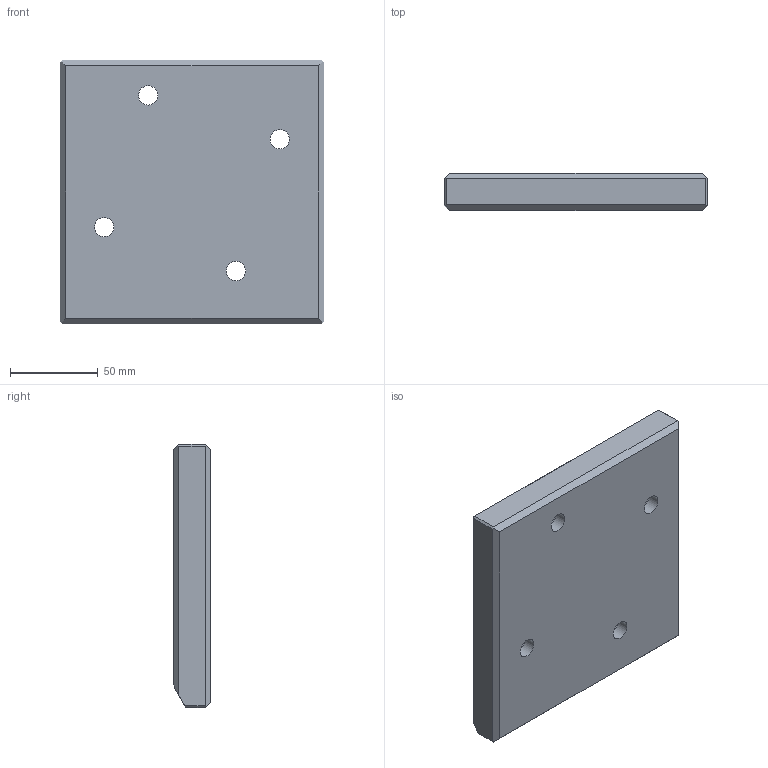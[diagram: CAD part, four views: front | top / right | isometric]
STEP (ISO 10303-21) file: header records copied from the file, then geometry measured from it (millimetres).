
FILE_DESCRIPTION(/* description */ ('Impex Ready, www.impex-ready.pl'),/* implementation_level */ '2;1');
FILE_NAME(/* name */ 'C:\Users\VIKKY\Nextcloud\SM\projekt 10 - części na stronę internetową\Pliki_3D_new\322 Płytki PG14\PG14.150150.ipt.step',/* time_stamp */ '2021-12-19T18:13:39+01:00',/* author */ ('SM'),/* organization */ (''),/* preprocessor_version */ 'ST-DEVELOPER v18.1',/* originating_system */ 'Autodesk Inventor 2021',/* authorisation */ '');
FILE_SCHEMA (('AUTOMOTIVE_DESIGN { 1 0 10303 214 3 1 1 }'));
Length unit declared in the file: millimetre
Products named in the file (1): PG14.150150
Bounding box: 150 x 21 x 150 mm (x, y, z)
Volume: 441186.7 mm3; surface area: 58451.1 mm2
Topology: 1 solids, 1 shells, 35 faces, 87 edges, 58 vertices
Faces by surface type: plane 22, cylinder 9, cone 4
Full cylindrical faces by diameter (mm): 11 x4, 20 x4
Entity records: 1148 total; most frequent: DIRECTION 185, CARTESIAN_POINT 181, ORIENTED_EDGE 174, EDGE_CURVE 87, AXIS2_PLACEMENT_3D 62, LINE 61, VECTOR 61, VERTEX_POINT 58
